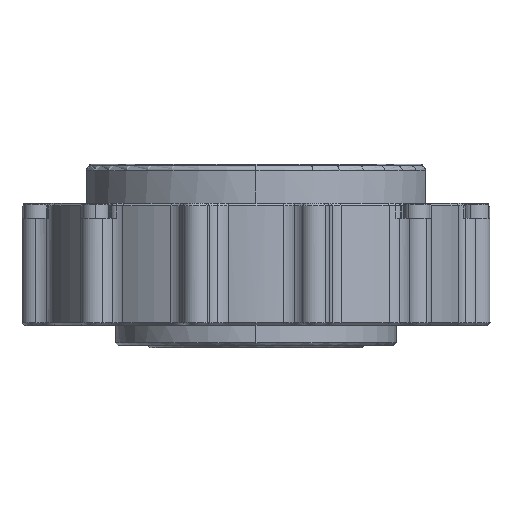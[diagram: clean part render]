
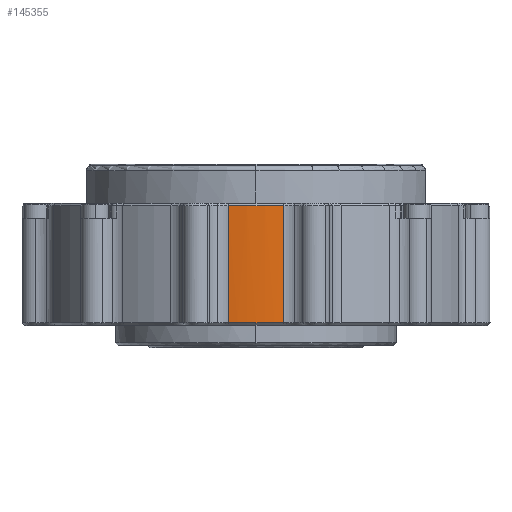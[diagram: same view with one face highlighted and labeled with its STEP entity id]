
A CAD part, top view. The second image highlights one B-rep face of the part: STEP entity #145355.
In plain terms, the highlighted cylindrical face has radius 45.5 mm (diameter 91 mm), a partial arc.
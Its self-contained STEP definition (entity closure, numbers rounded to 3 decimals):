
#1972 = ORIENTED_EDGE ( 'NONE', *, *, #102214, .F. ) ;
#5951 = DIRECTION ( 'NONE',  ( 1., 0., 0. ) ) ;
#9969 = VERTEX_POINT ( 'NONE', #82505 ) ;
#16875 = DIRECTION ( 'NONE',  ( 0., -1., 0. ) ) ;
#17913 = EDGE_CURVE ( 'NONE', #137812, #9969, #88031, .T. ) ;
#22984 = CIRCLE ( 'NONE', #81875, 45.5 ) ;
#31809 = DIRECTION ( 'NONE',  ( 0., 1., 0. ) ) ;
#34283 = CYLINDRICAL_SURFACE ( 'NONE', #85295, 45.5 ) ;
#38379 = EDGE_CURVE ( 'NONE', #42123, #101845, #22984, .T. ) ;
#42123 = VERTEX_POINT ( 'NONE', #114464 ) ;
#43704 = EDGE_CURVE ( 'NONE', #90468, #137812, #158065, .T. ) ;
#47131 = DIRECTION ( 'NONE',  ( -0.707, 0., -0.707 ) ) ;
#59161 = AXIS2_PLACEMENT_3D ( 'NONE', #155805, #153129, #145481 ) ;
#59772 = FACE_OUTER_BOUND ( 'NONE', #86772, .T. ) ;
#67583 = DIRECTION ( 'NONE',  ( 1., 0., 0. ) ) ;
#75130 = CARTESIAN_POINT ( 'NONE',  ( -5.724, -24.7, 45.144 ) ) ;
#75676 = LINE ( 'NONE', #142187, #131184 ) ;
#76131 = ORIENTED_EDGE ( 'NONE', *, *, #43704, .T. ) ;
#76567 = DIRECTION ( 'NONE',  ( 0., 1., 0. ) ) ;
#81875 = AXIS2_PLACEMENT_3D ( 'NONE', #100486, #120927, #5951 ) ;
#82505 = CARTESIAN_POINT ( 'NONE',  ( 5.724, -24.7, 45.144 ) ) ;
#85295 = AXIS2_PLACEMENT_3D ( 'NONE', #143905, #116108, #47131 ) ;
#86506 = CARTESIAN_POINT ( 'NONE',  ( 5.724, -0.5, 45.144 ) ) ;
#86772 = EDGE_LOOP ( 'NONE', ( #139071, #1972, #76131, #131760, #125895 ) ) ;
#88031 = CIRCLE ( 'NONE', #132961, 45.5 ) ;
#90468 = VERTEX_POINT ( 'NONE', #75130 ) ;
#100486 = CARTESIAN_POINT ( 'NONE',  ( 0., -0.5, 0.006 ) ) ;
#101845 = VERTEX_POINT ( 'NONE', #86506 ) ;
#102214 = EDGE_CURVE ( 'NONE', #90468, #42123, #135439, .T. ) ;
#112513 = CARTESIAN_POINT ( 'NONE',  ( 0., -24.7, 45.506 ) ) ;
#114464 = CARTESIAN_POINT ( 'NONE',  ( -5.724, -0.5, 45.144 ) ) ;
#116108 = DIRECTION ( 'NONE',  ( 0., -1., 0. ) ) ;
#120927 = DIRECTION ( 'NONE',  ( 0., 1., 0. ) ) ;
#123775 = CARTESIAN_POINT ( 'NONE',  ( 0., -24.7, 0.006 ) ) ;
#125105 = CARTESIAN_POINT ( 'NONE',  ( -5.724, 0., 45.144 ) ) ;
#125895 = ORIENTED_EDGE ( 'NONE', *, *, #152816, .F. ) ;
#131184 = VECTOR ( 'NONE', #16875, 1000. ) ;
#131760 = ORIENTED_EDGE ( 'NONE', *, *, #17913, .T. ) ;
#132961 = AXIS2_PLACEMENT_3D ( 'NONE', #123775, #31809, #67583 ) ;
#135439 = LINE ( 'NONE', #125105, #148184 ) ;
#137812 = VERTEX_POINT ( 'NONE', #112513 ) ;
#139071 = ORIENTED_EDGE ( 'NONE', *, *, #38379, .F. ) ;
#142187 = CARTESIAN_POINT ( 'NONE',  ( 5.724, 0., 45.144 ) ) ;
#143905 = CARTESIAN_POINT ( 'NONE',  ( 0., 0., 0.006 ) ) ;
#145355 = ADVANCED_FACE ( 'NONE', ( #59772 ), #34283, .T. ) ;
#145481 = DIRECTION ( 'NONE',  ( 1., 0., 0. ) ) ;
#148184 = VECTOR ( 'NONE', #76567, 1000. ) ;
#152816 = EDGE_CURVE ( 'NONE', #101845, #9969, #75676, .T. ) ;
#153129 = DIRECTION ( 'NONE',  ( 0., 1., 0. ) ) ;
#155805 = CARTESIAN_POINT ( 'NONE',  ( 0., -24.7, 0.006 ) ) ;
#158065 = CIRCLE ( 'NONE', #59161, 45.5 ) ;
